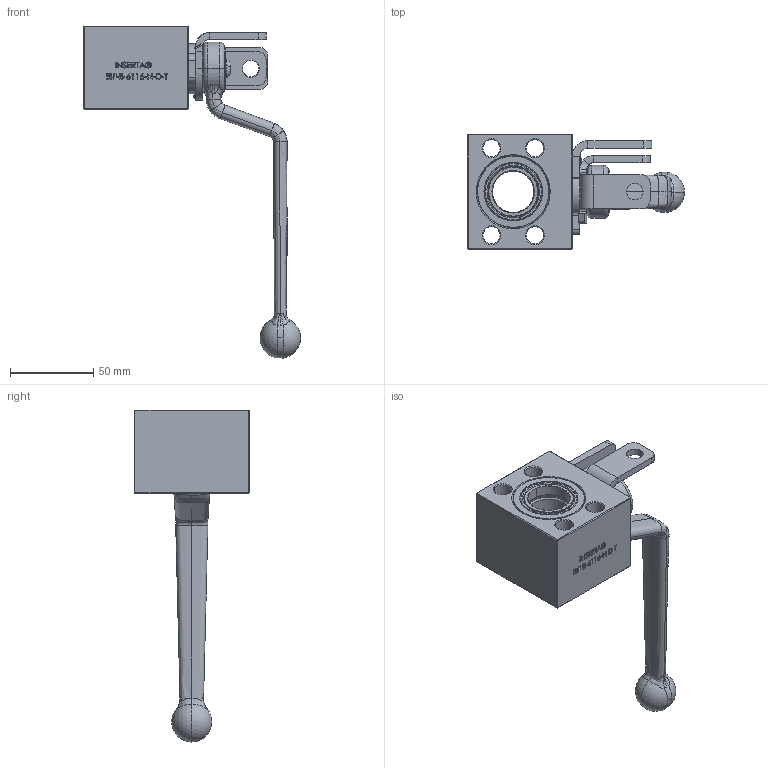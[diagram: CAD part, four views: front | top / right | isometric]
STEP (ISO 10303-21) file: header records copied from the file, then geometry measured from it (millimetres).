
FILE_DESCRIPTION (( 'STEP AP214' ), '1' );
FILE_NAME ('IBF-B-6116-N-D-T Open~.STEP', '2025-12-01T14:58:51', ( '' ), ( '' ), 'SwSTEP 2.0', 'SolidWorks 2023', '' );
FILE_SCHEMA (( 'AUTOMOTIVE_DESIGN' ));
Length unit declared in the file: inch
Products named in the file (1): IBF-B-6116-N-D-T Open~
Bounding box: 130.64 x 69.72 x 199.75 mm (x, y, z)
Volume: 230656.4 mm3; surface area: 74436.4 mm2
Topology: 2 solids, 3 shells, 1047 faces, 2851 edges, 1856 vertices
Faces by surface type: plane 504, bspline 193, cylinder 181, cone 67, torus 66, sphere 36
Entity records: 58424 total; most frequent: CARTESIAN_POINT 33879, ORIENTED_EDGE 5656, DIRECTION 4268, EDGE_CURVE 2828, VERTEX_POINT 1845, AXIS2_PLACEMENT_3D 1471, LINE 1326, VECTOR 1326
